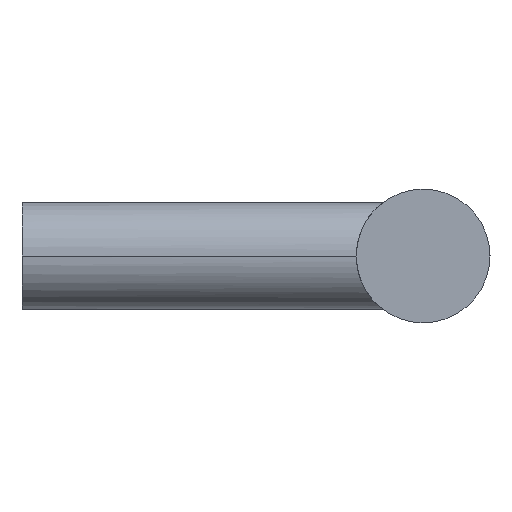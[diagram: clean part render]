
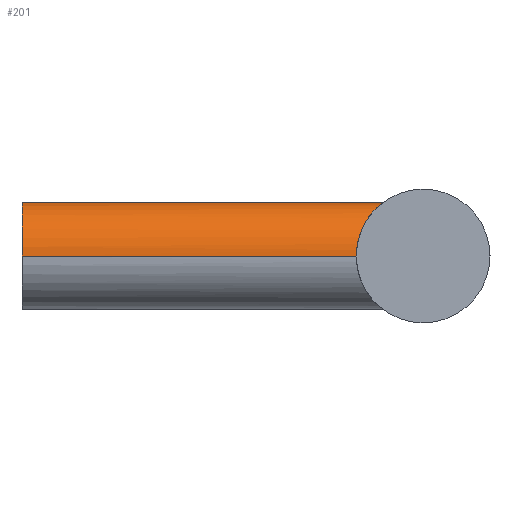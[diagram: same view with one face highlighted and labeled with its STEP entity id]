
A CAD part, left-side view. The second image highlights one B-rep face of the part: STEP entity #201.
In plain terms, the highlighted cylindrical face has radius 4 mm (diameter 8 mm), a partial arc.
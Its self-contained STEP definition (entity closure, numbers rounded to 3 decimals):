
#95 = VERTEX_POINT( '', #253 );
#103 = EDGE_CURVE( '', #145, #133, #261, .T. );
#129 = VERTEX_POINT( '', #291 );
#133 = VERTEX_POINT( '', #296 );
#145 = VERTEX_POINT( '', #311 );
#157 = EDGE_CURVE( '', #95, #145, #326, .T. );
#187 = EDGE_CURVE( '', #129, #95, #360, .T. );
#201 = ADVANCED_FACE( '', ( #375 ), #376, .T. );
#203 = EDGE_CURVE( '', #209, #129, #378, .T. );
#207 = EDGE_CURVE( '', #133, #209, #382, .T. );
#209 = VERTEX_POINT( '', #384 );
#253 = CARTESIAN_POINT( '', ( -4., -25., 0. ) );
#261 = CIRCLE( '', #436, 4. );
#291 = CARTESIAN_POINT( '', ( 0., -27., 4. ) );
#296 = CARTESIAN_POINT( '', ( 4., 0., 0. ) );
#311 = CARTESIAN_POINT( '', ( -4., 0., 0. ) );
#326 = LINE( '', #527, #528 );
#360 = B_SPLINE_CURVE_WITH_KNOTS( '', 3, ( #605, #606, #607, #608, #609, #610, #611, #612, #613, #614, #615, #616, #617, #618, #619, #620, #621, #622 ), .UNSPECIFIED., .F., .F., ( 4, 2, 2, 2, 2, 2, 2, 2, 4 ), ( 0., 0.82, 1.641, 2.461, 3.281, 4.076, 4.871, 5.666, 6.46 ), .UNSPECIFIED. );
#375 = FACE_OUTER_BOUND( '', #639, .T. );
#376 = CYLINDRICAL_SURFACE( '', #640, 4. );
#378 = B_SPLINE_CURVE_WITH_KNOTS( '', 3, ( #643, #644, #645, #646, #647, #648, #649, #650, #651, #652, #653, #654, #655, #656, #657, #658, #659, #660 ), .UNSPECIFIED., .F., .F., ( 4, 2, 2, 2, 2, 2, 2, 2, 4 ), ( 19.381, 20.176, 20.97, 21.765, 22.56, 23.38, 24.201, 25.021, 25.841 ), .UNSPECIFIED. );
#382 = LINE( '', #667, #668 );
#384 = CARTESIAN_POINT( '', ( 4., -25., 0. ) );
#436 = AXIS2_PLACEMENT_3D( '', #761, #762, #763 );
#527 = CARTESIAN_POINT( '', ( -4., 0., 0. ) );
#528 = VECTOR( '', #849, 1. );
#605 = CARTESIAN_POINT( '', ( 0., -27., 4. ) );
#606 = CARTESIAN_POINT( '', ( -0.273, -27., 4. ) );
#607 = CARTESIAN_POINT( '', ( -0.545, -26.962, 3.972 ) );
#608 = CARTESIAN_POINT( '', ( -1.07, -26.825, 3.864 ) );
#609 = CARTESIAN_POINT( '', ( -1.324, -26.728, 3.784 ) );
#610 = CARTESIAN_POINT( '', ( -1.807, -26.505, 3.578 ) );
#611 = CARTESIAN_POINT( '', ( -2.035, -26.379, 3.453 ) );
#612 = CARTESIAN_POINT( '', ( -2.459, -26.124, 3.165 ) );
#613 = CARTESIAN_POINT( '', ( -2.654, -25.996, 3.002 ) );
#614 = CARTESIAN_POINT( '', ( -2.997, -25.761, 2.66 ) );
#615 = CARTESIAN_POINT( '', ( -3.158, -25.645, 2.468 ) );
#616 = CARTESIAN_POINT( '', ( -3.447, -25.431, 2.045 ) );
#617 = CARTESIAN_POINT( '', ( -3.575, -25.333, 1.813 ) );
#618 = CARTESIAN_POINT( '', ( -3.784, -25.171, 1.323 ) );
#619 = CARTESIAN_POINT( '', ( -3.865, -25.107, 1.064 ) );
#620 = CARTESIAN_POINT( '', ( -3.973, -25.021, 0.535 ) );
#621 = CARTESIAN_POINT( '', ( -4., -25., 0.265 ) );
#622 = CARTESIAN_POINT( '', ( -4., -25., 0. ) );
#639 = EDGE_LOOP( '', ( #905, #906, #907, #908, #909 ) );
#640 = AXIS2_PLACEMENT_3D( '', #910, #911, #912 );
#643 = CARTESIAN_POINT( '', ( 4., -25., 0. ) );
#644 = CARTESIAN_POINT( '', ( 4., -25., 0.265 ) );
#645 = CARTESIAN_POINT( '', ( 3.973, -25.021, 0.535 ) );
#646 = CARTESIAN_POINT( '', ( 3.865, -25.107, 1.064 ) );
#647 = CARTESIAN_POINT( '', ( 3.784, -25.171, 1.323 ) );
#648 = CARTESIAN_POINT( '', ( 3.575, -25.333, 1.813 ) );
#649 = CARTESIAN_POINT( '', ( 3.447, -25.431, 2.045 ) );
#650 = CARTESIAN_POINT( '', ( 3.158, -25.645, 2.468 ) );
#651 = CARTESIAN_POINT( '', ( 2.997, -25.761, 2.66 ) );
#652 = CARTESIAN_POINT( '', ( 2.654, -25.996, 3.002 ) );
#653 = CARTESIAN_POINT( '', ( 2.459, -26.124, 3.165 ) );
#654 = CARTESIAN_POINT( '', ( 2.035, -26.379, 3.453 ) );
#655 = CARTESIAN_POINT( '', ( 1.807, -26.505, 3.578 ) );
#656 = CARTESIAN_POINT( '', ( 1.324, -26.728, 3.784 ) );
#657 = CARTESIAN_POINT( '', ( 1.07, -26.825, 3.864 ) );
#658 = CARTESIAN_POINT( '', ( 0.545, -26.962, 3.972 ) );
#659 = CARTESIAN_POINT( '', ( 0.273, -27., 4. ) );
#660 = CARTESIAN_POINT( '', ( 0., -27., 4. ) );
#667 = CARTESIAN_POINT( '', ( 4., 0., 0. ) );
#668 = VECTOR( '', #914, 1. );
#761 = CARTESIAN_POINT( '', ( 0., 0., 0. ) );
#762 = DIRECTION( '', ( 0., 1., 0. ) );
#763 = DIRECTION( '', ( 1., 0., 0. ) );
#849 = DIRECTION( '', ( 0., 1., 0. ) );
#905 = ORIENTED_EDGE( '', *, *, #207, .F. );
#906 = ORIENTED_EDGE( '', *, *, #103, .F. );
#907 = ORIENTED_EDGE( '', *, *, #157, .F. );
#908 = ORIENTED_EDGE( '', *, *, #187, .F. );
#909 = ORIENTED_EDGE( '', *, *, #203, .F. );
#910 = CARTESIAN_POINT( '', ( 0., 0., 0. ) );
#911 = DIRECTION( '', ( 0., 1., 0. ) );
#912 = DIRECTION( '', ( 1., 0., 0. ) );
#914 = DIRECTION( '', ( 0., -1., 0. ) );
